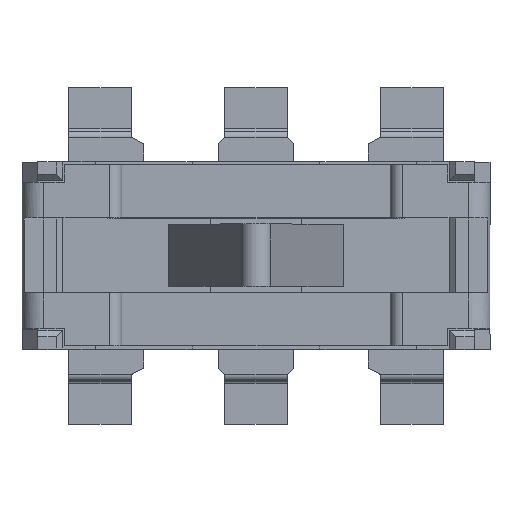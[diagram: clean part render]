
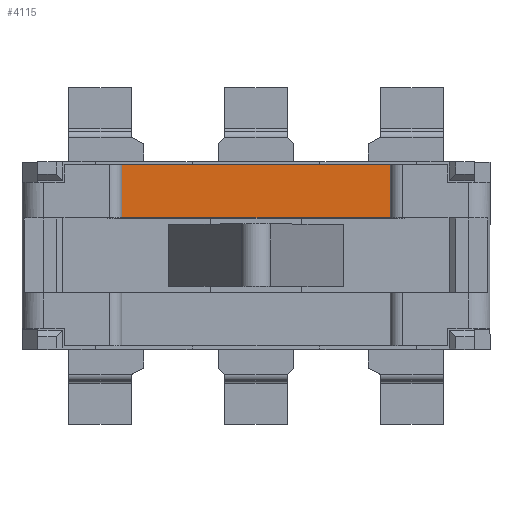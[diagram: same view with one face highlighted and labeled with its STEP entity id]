
A CAD part, top view. The second image highlights one B-rep face of the part: STEP entity #4115.
In plain terms, the highlighted planar face has unit normal (0, 0, 1).
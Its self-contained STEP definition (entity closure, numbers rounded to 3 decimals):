
#199 = CARTESIAN_POINT ( 'NONE',  ( -2.149, 1.45, 5.395 ) ) ;
#207 = CARTESIAN_POINT ( 'NONE',  ( 2.151, 1.45, 5.395 ) ) ;
#215 = CARTESIAN_POINT ( 'NONE',  ( 2.151, 0.6, 5.395 ) ) ;
#1802 = VERTEX_POINT ( 'NONE', #215 ) ;
#1809 = VERTEX_POINT ( 'NONE', #207 ) ;
#1815 = VERTEX_POINT ( 'NONE', #199 ) ;
#1977 = ORIENTED_EDGE ( 'NONE', *, *, #7140, .F. ) ;
#1978 = ORIENTED_EDGE ( 'NONE', *, *, #7133, .F. ) ;
#3221 = DIRECTION ( 'NONE',  ( 1., 0., 0. ) ) ;
#3225 = CARTESIAN_POINT ( 'NONE',  ( 3.751, 0.6, 5.395 ) ) ;
#3344 = CARTESIAN_POINT ( 'NONE',  ( 2.151, 1.45, 5.395 ) ) ;
#3345 = DIRECTION ( 'NONE',  ( 1., 0., 0. ) ) ;
#3368 = CARTESIAN_POINT ( 'NONE',  ( -2.149, 0., 5.395 ) ) ;
#3369 = DIRECTION ( 'NONE',  ( 0., 1., 0. ) ) ;
#3370 = CARTESIAN_POINT ( 'NONE',  ( 2.151, 0., 5.395 ) ) ;
#3371 = DIRECTION ( 'NONE',  ( 0., -1., 0. ) ) ;
#4115 = ADVANCED_FACE ( 'NONE', ( #8157 ), #7782, .F. ) ;
#4428 = CARTESIAN_POINT ( 'NONE',  ( -2.149, 0.6, 5.395 ) ) ;
#5937 = AXIS2_PLACEMENT_3D ( 'NONE', #7794, #7770, #7765 ) ;
#6450 = VERTEX_POINT ( 'NONE', #4428 ) ;
#7080 = EDGE_CURVE ( 'NONE', #6450, #1802, #8323, .T. ) ;
#7133 = EDGE_CURVE ( 'NONE', #1815, #1809, #8415, .T. ) ;
#7140 = EDGE_CURVE ( 'NONE', #6450, #1815, #8428, .T. ) ;
#7141 = EDGE_CURVE ( 'NONE', #1809, #1802, #8430, .T. ) ;
#7345 = ORIENTED_EDGE ( 'NONE', *, *, #7141, .F. ) ;
#7346 = ORIENTED_EDGE ( 'NONE', *, *, #7080, .T. ) ;
#7697 = EDGE_LOOP ( 'NONE', ( #7346, #7345, #1978, #1977 ) ) ;
#7765 = DIRECTION ( 'NONE',  ( 1., 0., 0. ) ) ;
#7770 = DIRECTION ( 'NONE',  ( 0., 0., -1. ) ) ;
#7782 = PLANE ( 'NONE',  #5937 ) ;
#7794 = CARTESIAN_POINT ( 'NONE',  ( 2.151, 0., 5.395 ) ) ;
#8157 = FACE_OUTER_BOUND ( 'NONE', #7697, .T. ) ;
#8323 = LINE ( 'NONE', #3225, #8330 ) ;
#8330 = VECTOR ( 'NONE', #3221, 1000. ) ;
#8415 = LINE ( 'NONE', #3344, #8417 ) ;
#8417 = VECTOR ( 'NONE', #3345, 1000. ) ;
#8428 = LINE ( 'NONE', #3368, #8431 ) ;
#8430 = LINE ( 'NONE', #3370, #8433 ) ;
#8431 = VECTOR ( 'NONE', #3369, 1000. ) ;
#8433 = VECTOR ( 'NONE', #3371, 1000. ) ;
